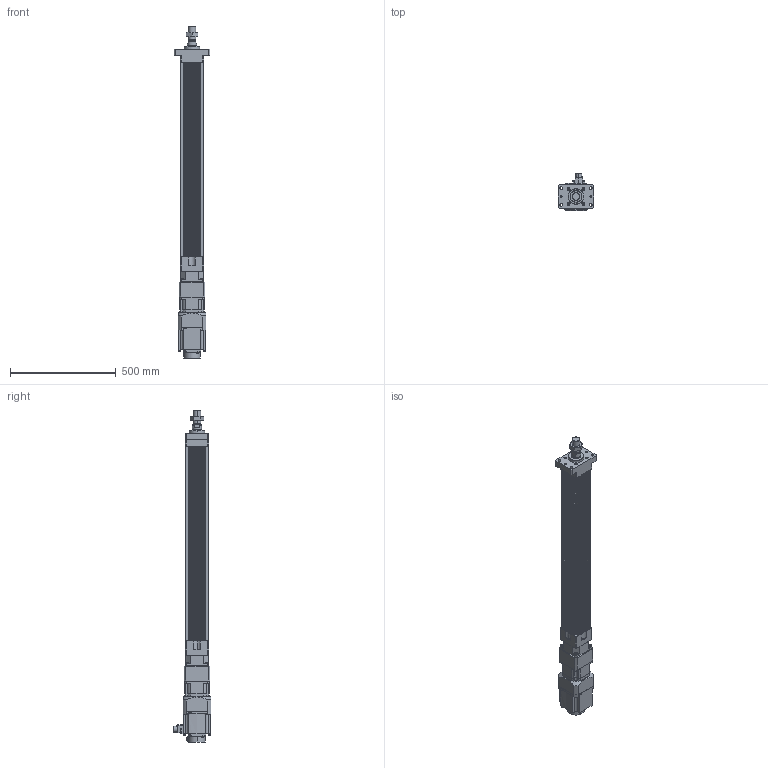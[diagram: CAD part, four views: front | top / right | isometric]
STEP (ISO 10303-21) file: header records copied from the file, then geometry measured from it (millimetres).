
FILE_DESCRIPTION (( 'STEP AP203' ), '1' );
FILE_NAME ('HES110NS(HS)-S750-W015G00-M-FM.STEP', '2023-01-28T06:55:47', ( 'tms' ), ( '' ), 'SwSTEP 2.0', 'SolidWorks 2013', '' );
FILE_SCHEMA (( 'CONFIG_CONTROL_DESIGN' ));
Length unit declared in the file: millimetre
Products named in the file (8): HES110NS(HS)-S750-W015G00-M-FM; HES110 ROD M ST750; AB1151; P0401400706; AB115-003[HG-SR152]; M36X1.5P; HES110-S750-G120-FM; HG-SR152
Assembly tree (7 placements, depth 3):
  HES110NS(HS)-S750-W015G00-M-FM
    HES110-S750-G120-FM
    HES110 ROD M ST750
    M36X1.5P
    AB115-003[HG-SR152]
      AB1151
      P0401400706
    HG-SR152
Bounding box: 170 x 177.49 x 1571.5 mm (x, y, z)
Volume: 10127034.6 mm3; surface area: 1449633.7 mm2
Topology: 4 solids, 15 shells, 1170 faces, 2958 edges, 1925 vertices
Faces by surface type: plane 559, cylinder 525, cone 74, bspline 8, torus 4
Entity records: 36974 total; most frequent: CARTESIAN_POINT 7028, DIRECTION 6389, ORIENTED_EDGE 5864, EDGE_CURVE 2942, AXIS2_PLACEMENT_3D 2346, VERTEX_POINT 1925, VECTOR 1697, LINE 1697
